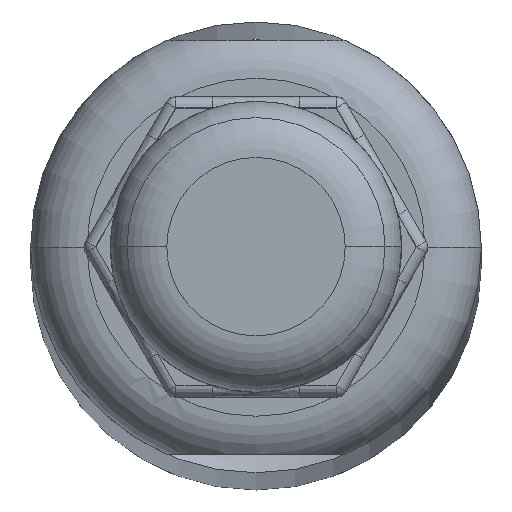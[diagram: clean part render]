
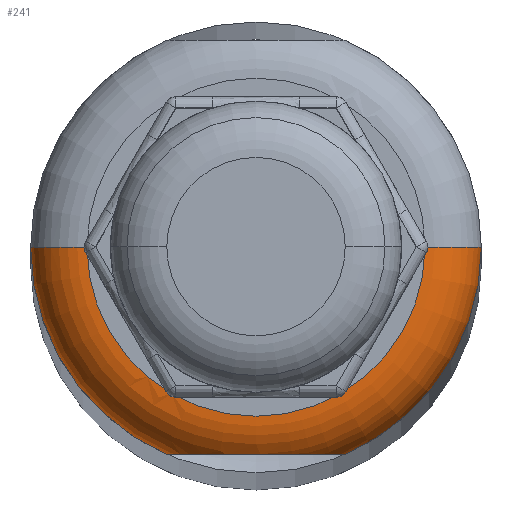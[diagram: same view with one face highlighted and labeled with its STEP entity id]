
A CAD part, top view. The second image highlights one B-rep face of the part: STEP entity #241.
In plain terms, the highlighted toroidal (fillet/blend) face has major radius 9 mm and minor radius 3 mm.
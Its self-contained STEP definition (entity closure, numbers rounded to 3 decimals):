
#1=CARTESIAN_POINT('',(0.,0.,17.5));
#2=DIRECTION('',(0.,0.,1.));
#3=DIRECTION('',(-1.,0.,0.));
#4=AXIS2_PLACEMENT_3D('',#1,#2,#3);
#11=CARTESIAN_POINT('',(-9.,0.,14.5));
#12=DIRECTION('',(0.,-1.,0.));
#13=DIRECTION('',(0.,0.,1.));
#14=AXIS2_PLACEMENT_3D('',#11,#12,#13);
#16=CARTESIAN_POINT('',(9.,0.,14.5));
#17=DIRECTION('',(0.,1.,0.));
#18=DIRECTION('',(0.,0.,1.));
#19=AXIS2_PLACEMENT_3D('',#16,#17,#18);
#47=CARTESIAN_POINT('',(-4.75,-11.02,14.5));
#48=CARTESIAN_POINT('',(-4.75,-11.02,14.551));
#49=CARTESIAN_POINT('',(-4.744,-11.02,14.654));
#50=CARTESIAN_POINT('',(-4.712,-11.02,14.815));
#51=CARTESIAN_POINT('',(-4.656,-11.02,14.978));
#52=CARTESIAN_POINT('',(-4.577,-11.02,15.141));
#53=CARTESIAN_POINT('',(-4.472,-11.02,15.302));
#54=CARTESIAN_POINT('',(-4.335,-11.02,15.467));
#55=CARTESIAN_POINT('',(-4.162,-11.02,15.634));
#56=CARTESIAN_POINT('',(-3.948,-11.02,15.802));
#57=CARTESIAN_POINT('',(-3.685,-11.02,15.968));
#58=CARTESIAN_POINT('',(-3.375,-11.02,16.126));
#59=CARTESIAN_POINT('',(-3.01,-11.02,16.274));
#60=CARTESIAN_POINT('',(-2.585,-11.02,16.409));
#61=CARTESIAN_POINT('',(-2.093,-11.02,16.527));
#62=CARTESIAN_POINT('',(-1.543,-11.02,16.621));
#63=CARTESIAN_POINT('',(-0.946,-11.02,16.686));
#64=CARTESIAN_POINT('',(-0.318,-11.02,16.72));
#65=CARTESIAN_POINT('',(0.318,-11.02,16.72));
#66=CARTESIAN_POINT('',(0.946,-11.02,16.686));
#67=CARTESIAN_POINT('',(1.543,-11.02,16.621));
#68=CARTESIAN_POINT('',(2.093,-11.02,16.527));
#69=CARTESIAN_POINT('',(2.585,-11.02,16.409));
#70=CARTESIAN_POINT('',(3.01,-11.02,16.274));
#71=CARTESIAN_POINT('',(3.375,-11.02,16.126));
#72=CARTESIAN_POINT('',(3.685,-11.02,15.968));
#73=CARTESIAN_POINT('',(3.948,-11.02,15.802));
#74=CARTESIAN_POINT('',(4.162,-11.02,15.634));
#75=CARTESIAN_POINT('',(4.335,-11.02,15.467));
#76=CARTESIAN_POINT('',(4.472,-11.02,15.302));
#77=CARTESIAN_POINT('',(4.577,-11.02,15.141));
#78=CARTESIAN_POINT('',(4.656,-11.02,14.978));
#79=CARTESIAN_POINT('',(4.712,-11.02,14.815));
#80=CARTESIAN_POINT('',(4.744,-11.02,14.654));
#81=CARTESIAN_POINT('',(4.75,-11.02,14.551));
#82=CARTESIAN_POINT('',(4.75,-11.02,14.5));
#98=CARTESIAN_POINT('',(0.,0.,14.5));
#99=DIRECTION('',(0.,0.,1.));
#100=DIRECTION('',(0.396,-0.918,0.));
#101=AXIS2_PLACEMENT_3D('',#98,#99,#100);
#108=CARTESIAN_POINT('',(0.,0.,14.5));
#109=DIRECTION('',(0.,0.,1.));
#110=DIRECTION('',(-1.,0.,0.));
#111=AXIS2_PLACEMENT_3D('',#108,#109,#110);
#194=VERTEX_POINT('',#47);
#195=VERTEX_POINT('',#82);
#196=CARTESIAN_POINT('',(-12.,0.,14.5));
#197=VERTEX_POINT('',#196);
#198=CARTESIAN_POINT('',(-9.,0.,17.5));
#199=CARTESIAN_POINT('',(9.,0.,17.5));
#200=VERTEX_POINT('',#198);
#201=VERTEX_POINT('',#199);
#202=CARTESIAN_POINT('',(12.,0.,14.5));
#203=VERTEX_POINT('',#202);
#223=CARTESIAN_POINT('',(0.,0.,14.5));
#224=DIRECTION('',(0.,0.,1.));
#225=DIRECTION('',(0.394,0.919,0.));
#226=AXIS2_PLACEMENT_3D('',#223,#224,#225);
#227=TOROIDAL_SURFACE('',#226,9.,3.);
#229=ORIENTED_EDGE('',*,*,#228,.F.);
#231=ORIENTED_EDGE('',*,*,#230,.F.);
#233=ORIENTED_EDGE('',*,*,#232,.F.);
#234=ORIENTED_EDGE('',*,*,#216,.T.);
#236=ORIENTED_EDGE('',*,*,#235,.T.);
#238=ORIENTED_EDGE('',*,*,#237,.F.);
#239=EDGE_LOOP('',(#229,#231,#233,#234,#236,#238));
#240=FACE_OUTER_BOUND('',#239,.F.);
#241=ADVANCED_FACE('',(#240),#227,.T.);
#5=CIRCLE('',#4,9.);
#15=CIRCLE('',#14,3.);
#20=CIRCLE('',#19,3.);
#83=B_SPLINE_CURVE_WITH_KNOTS('',3,(#47,#48,#49,#50,#51,#52,#53,#54,#55,#56,#57,
#58,#59,#60,#61,#62,#63,#64,#65,#66,#67,#68,#69,#70,#71,#72,#73,#74,#75,#76,#77,
#78,#79,#80,#81,#82),.UNSPECIFIED.,.F.,.F.,(4,1,1,1,1,1,1,1,1,1,1,1,1,1,1,1,1,1,
1,1,1,1,1,1,1,1,1,1,1,1,1,1,1,4),(0.,0.03,0.061,
0.091,0.121,0.152,0.182,
0.212,0.242,0.273,0.303,
0.333,0.364,0.394,0.424,
0.455,0.485,0.515,0.545,
0.576,0.606,0.636,0.667,
0.697,0.727,0.758,0.788,
0.818,0.848,0.879,0.909,
0.939,0.97,1.),.UNSPECIFIED.);
#102=CIRCLE('',#101,12.);
#112=CIRCLE('',#111,12.);
#216=EDGE_CURVE('',#200,#201,#5,.T.);
#228=EDGE_CURVE('',#194,#195,#83,.T.);
#230=EDGE_CURVE('',#197,#194,#112,.T.);
#232=EDGE_CURVE('',#200,#197,#15,.T.);
#235=EDGE_CURVE('',#201,#203,#20,.T.);
#237=EDGE_CURVE('',#195,#203,#102,.T.);
